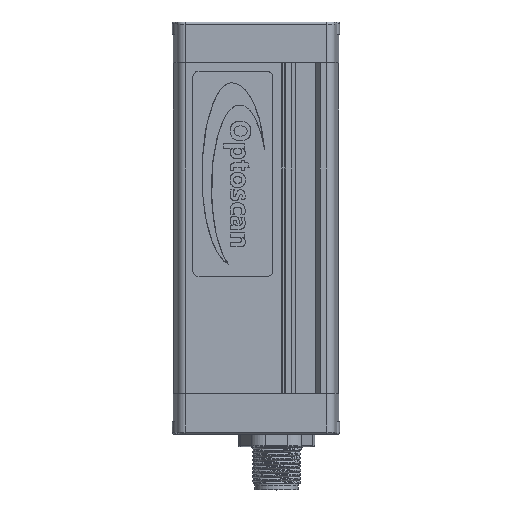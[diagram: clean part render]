
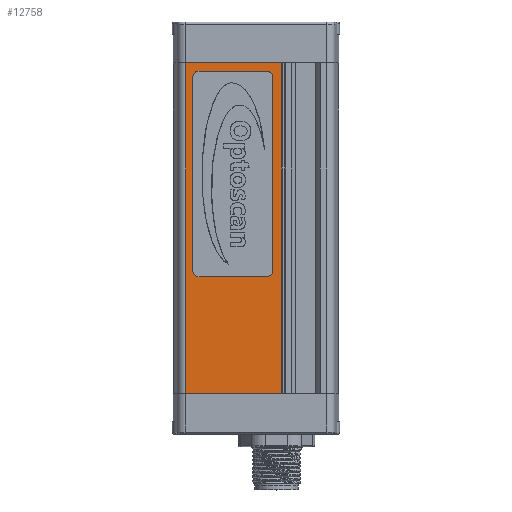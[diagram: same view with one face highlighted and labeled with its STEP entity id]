
A CAD part, top view. The second image highlights one B-rep face of the part: STEP entity #12758.
In plain terms, the highlighted planar face has unit normal (0, 0, 1).
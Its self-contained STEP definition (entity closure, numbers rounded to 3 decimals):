
#144=FACE_BOUND('',#1993,.T.);
#442=CIRCLE('',#13583,1.49);
#443=CIRCLE('',#13584,1.49);
#444=CIRCLE('',#13585,1.49);
#445=CIRCLE('',#13586,1.49);
#947=PLANE('',#13582);
#1296=FACE_OUTER_BOUND('',#1992,.T.);
#1992=EDGE_LOOP('',(#8616,#8617,#8618,#8619));
#1993=EDGE_LOOP('',(#8620,#8621,#8622,#8623,#8624,#8625,#8626,#8627));
#3049=LINE('',#19136,#4070);
#3061=LINE('',#19170,#4082);
#3075=LINE('',#19207,#4096);
#3076=LINE('',#19208,#4097);
#3077=LINE('',#19213,#4098);
#3078=LINE('',#19217,#4099);
#3079=LINE('',#19221,#4100);
#3080=LINE('',#19224,#4101);
#4070=VECTOR('',#15137,10.);
#4082=VECTOR('',#15161,10.);
#4096=VECTOR('',#15189,10.);
#4097=VECTOR('',#15190,10.);
#4098=VECTOR('',#15193,10.);
#4099=VECTOR('',#15196,10.);
#4100=VECTOR('',#15199,10.);
#4101=VECTOR('',#15202,10.);
#5203=VERTEX_POINT('',#19133);
#5204=VERTEX_POINT('',#19135);
#5219=VERTEX_POINT('',#19167);
#5220=VERTEX_POINT('',#19169);
#5237=VERTEX_POINT('',#19209);
#5238=VERTEX_POINT('',#19210);
#5239=VERTEX_POINT('',#19212);
#5240=VERTEX_POINT('',#19214);
#5241=VERTEX_POINT('',#19216);
#5242=VERTEX_POINT('',#19218);
#5243=VERTEX_POINT('',#19220);
#5244=VERTEX_POINT('',#19222);
#6497=EDGE_CURVE('',#5203,#5204,#3049,.T.);
#6513=EDGE_CURVE('',#5220,#5219,#3061,.T.);
#6531=EDGE_CURVE('',#5219,#5204,#3075,.T.);
#6532=EDGE_CURVE('',#5220,#5203,#3076,.T.);
#6533=EDGE_CURVE('',#5237,#5238,#442,.T.);
#6534=EDGE_CURVE('',#5239,#5237,#3077,.T.);
#6535=EDGE_CURVE('',#5240,#5239,#443,.T.);
#6536=EDGE_CURVE('',#5241,#5240,#3078,.T.);
#6537=EDGE_CURVE('',#5242,#5241,#444,.T.);
#6538=EDGE_CURVE('',#5243,#5242,#3079,.T.);
#6539=EDGE_CURVE('',#5244,#5243,#445,.T.);
#6540=EDGE_CURVE('',#5238,#5244,#3080,.T.);
#8616=ORIENTED_EDGE('',*,*,#6513,.T.);
#8617=ORIENTED_EDGE('',*,*,#6531,.T.);
#8618=ORIENTED_EDGE('',*,*,#6497,.F.);
#8619=ORIENTED_EDGE('',*,*,#6532,.F.);
#8620=ORIENTED_EDGE('',*,*,#6533,.F.);
#8621=ORIENTED_EDGE('',*,*,#6534,.F.);
#8622=ORIENTED_EDGE('',*,*,#6535,.F.);
#8623=ORIENTED_EDGE('',*,*,#6536,.F.);
#8624=ORIENTED_EDGE('',*,*,#6537,.F.);
#8625=ORIENTED_EDGE('',*,*,#6538,.F.);
#8626=ORIENTED_EDGE('',*,*,#6539,.F.);
#8627=ORIENTED_EDGE('',*,*,#6540,.F.);
#12758=ADVANCED_FACE('',(#1296,#144),#947,.T.);
#13582=AXIS2_PLACEMENT_3D('',#19206,#15187,#15188);
#13583=AXIS2_PLACEMENT_3D('',#19211,#15191,#15192);
#13584=AXIS2_PLACEMENT_3D('',#19215,#15194,#15195);
#13585=AXIS2_PLACEMENT_3D('',#19219,#15197,#15198);
#13586=AXIS2_PLACEMENT_3D('',#19223,#15200,#15201);
#15137=DIRECTION('',(1.,0.,0.));
#15161=DIRECTION('',(1.,0.,0.));
#15187=DIRECTION('center_axis',(0.,0.,
1.));
#15188=DIRECTION('ref_axis',(1.,0.,0.));
#15189=DIRECTION('',(0.,1.,0.));
#15190=DIRECTION('',(0.,1.,0.));
#15191=DIRECTION('center_axis',(0.,0.,
1.));
#15192=DIRECTION('ref_axis',(0.707,0.707,0.));
#15193=DIRECTION('',(0.,1.,0.));
#15194=DIRECTION('center_axis',(0.,0.,
1.));
#15195=DIRECTION('ref_axis',(0.707,-0.707,0.));
#15196=DIRECTION('',(1.,0.,0.));
#15197=DIRECTION('center_axis',(0.,0.,
1.));
#15198=DIRECTION('ref_axis',(-0.707,-0.707,0.));
#15199=DIRECTION('',(0.,-1.,0.));
#15200=DIRECTION('center_axis',(0.,0.,
1.));
#15201=DIRECTION('ref_axis',(-0.707,0.707,0.));
#15202=DIRECTION('',(-1.,0.,0.));
#19133=CARTESIAN_POINT('',(-12.565,80.,1.277));
#19135=CARTESIAN_POINT('',(10.736,80.,1.277));
#19136=CARTESIAN_POINT('',(-12.565,80.,1.277));
#19167=CARTESIAN_POINT('',(10.736,0.,1.277));
#19169=CARTESIAN_POINT('',(-12.565,0.,1.277));
#19170=CARTESIAN_POINT('',(-12.565,0.,1.277));
#19206=CARTESIAN_POINT('Origin',(-12.565,0.,
1.277));
#19207=CARTESIAN_POINT('',(10.736,0.,1.277));
#19208=CARTESIAN_POINT('',(-12.565,0.,1.277));
#19209=CARTESIAN_POINT('',(8.576,76.5,1.277));
#19210=CARTESIAN_POINT('',(7.086,77.99,1.277));
#19211=CARTESIAN_POINT('Origin',(7.086,76.5,1.277));
#19212=CARTESIAN_POINT('',(8.576,29.7,1.277));
#19213=CARTESIAN_POINT('',(8.576,41.4,1.277));
#19214=CARTESIAN_POINT('',(7.086,28.21,1.277));
#19215=CARTESIAN_POINT('Origin',(7.086,29.7,1.277));
#19216=CARTESIAN_POINT('',(-9.314,28.21,1.277));
#19217=CARTESIAN_POINT('',(-5.214,28.21,1.277));
#19218=CARTESIAN_POINT('',(-10.804,29.7,1.277));
#19219=CARTESIAN_POINT('Origin',(-9.314,29.7,1.277));
#19220=CARTESIAN_POINT('',(-10.804,76.5,1.277));
#19221=CARTESIAN_POINT('',(-10.804,64.8,1.277));
#19222=CARTESIAN_POINT('',(-9.314,77.99,1.277));
#19223=CARTESIAN_POINT('Origin',(-9.314,76.5,1.277));
#19224=CARTESIAN_POINT('',(2.986,77.99,1.277));
